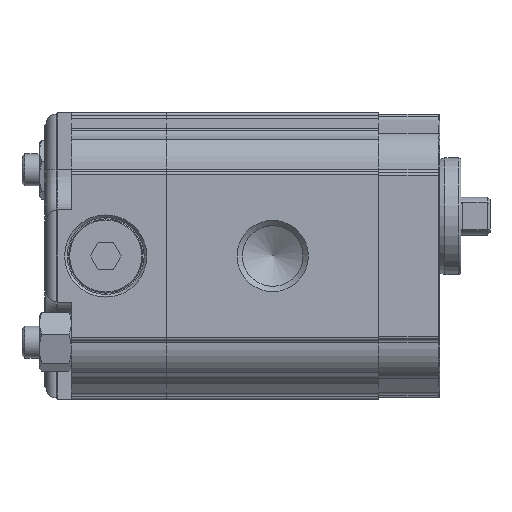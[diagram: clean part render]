
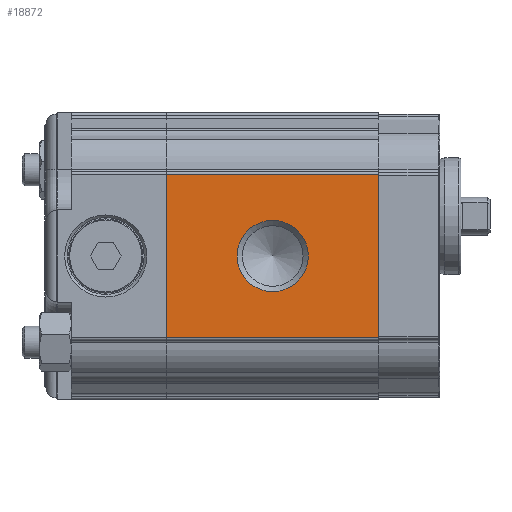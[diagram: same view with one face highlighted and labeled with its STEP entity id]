
A CAD part, left-side view. The second image highlights one B-rep face of the part: STEP entity #18872.
In plain terms, the highlighted planar face has unit normal (-1, 0, 0).
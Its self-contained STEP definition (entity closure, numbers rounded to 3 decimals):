
#1234=LINE('',#27724,#2253);
#1235=LINE('',#27728,#2254);
#1236=LINE('',#27730,#2255);
#1237=LINE('',#27732,#2256);
#2253=VECTOR('',#23037,1000.);
#2254=VECTOR('',#23042,1000.);
#2255=VECTOR('',#23043,1000.);
#2256=VECTOR('',#23044,1000.);
#4794=ORIENTED_EDGE('',*,*,#7641,.T.);
#4795=ORIENTED_EDGE('',*,*,#7642,.F.);
#4796=ORIENTED_EDGE('',*,*,#7640,.F.);
#4797=ORIENTED_EDGE('',*,*,#7643,.T.);
#4798=ORIENTED_EDGE('',*,*,#7644,.T.);
#7640=EDGE_CURVE('',#9209,#9208,#1234,.T.);
#7641=EDGE_CURVE('',#9210,#9210,#10214,.F.);
#7642=EDGE_CURVE('',#9208,#9211,#1235,.T.);
#7643=EDGE_CURVE('',#9209,#9212,#1236,.T.);
#7644=EDGE_CURVE('',#9212,#9211,#1237,.T.);
#9208=VERTEX_POINT('',#27721);
#9209=VERTEX_POINT('',#27723);
#9210=VERTEX_POINT('',#27727);
#9211=VERTEX_POINT('',#27729);
#9212=VERTEX_POINT('',#27731);
#10214=CIRCLE('',#20113,6.723);
#11048=EDGE_LOOP('',(#4794));
#11049=EDGE_LOOP('',(#4795,#4796,#4797,#4798));
#12046=FACE_BOUND('',#11048,.T.);
#12047=FACE_BOUND('',#11049,.T.);
#12716=PLANE('',#20112);
#18872=ADVANCED_FACE('',(#12046,#12047),#12716,.T.);
#20112=AXIS2_PLACEMENT_3D('',#27725,#23038,#23039);
#20113=AXIS2_PLACEMENT_3D('',#27726,#23040,#23041);
#23037=DIRECTION('',(0.,-1.,0.));
#23038=DIRECTION('',(-1.,0.,0.));
#23039=DIRECTION('',(0.,0.,1.));
#23040=DIRECTION('',(-1.,0.,0.));
#23041=DIRECTION('',(0.,0.,1.));
#23042=DIRECTION('',(0.,0.,-1.));
#23043=DIRECTION('',(0.,0.,-1.));
#23044=DIRECTION('',(0.,-1.,0.));
#27721=CARTESIAN_POINT('',(-25.,0.,15.418));
#27723=CARTESIAN_POINT('',(-25.,40.,15.418));
#27724=CARTESIAN_POINT('',(-25.,40.,15.418));
#27725=CARTESIAN_POINT('',(-25.,40.,15.418));
#27726=CARTESIAN_POINT('',(-25.,20.,0.));
#27727=CARTESIAN_POINT('',(-25.,20.,6.723));
#27728=CARTESIAN_POINT('',(-25.,0.,15.418));
#27729=CARTESIAN_POINT('',(-25.,0.,-15.418));
#27730=CARTESIAN_POINT('',(-25.,40.,15.418));
#27731=CARTESIAN_POINT('',(-25.,40.,-15.418));
#27732=CARTESIAN_POINT('',(-25.,40.,-15.418));
